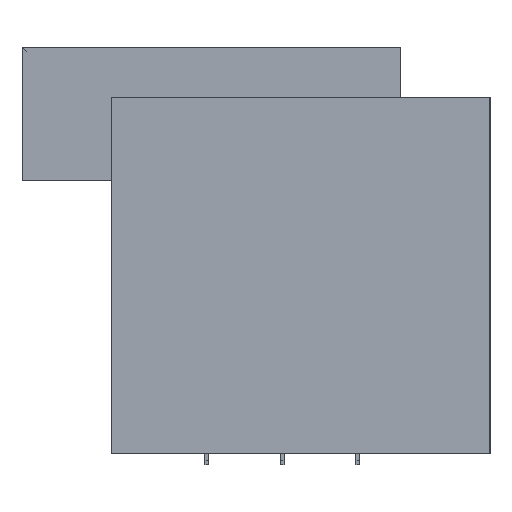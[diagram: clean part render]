
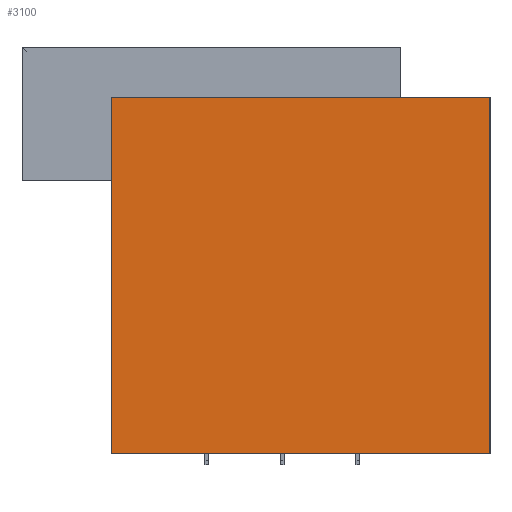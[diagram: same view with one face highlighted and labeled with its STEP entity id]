
A CAD part, left-side view. The second image highlights one B-rep face of the part: STEP entity #3100.
In plain terms, the highlighted planar face has unit normal (-1, 0, 0).
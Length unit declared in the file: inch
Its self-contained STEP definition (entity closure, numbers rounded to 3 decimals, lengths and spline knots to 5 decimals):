
#596=FACE_OUTER_BOUND('',#764,.T.);
#764=EDGE_LOOP('',(#2270,#2271,#2272,#2273));
#953=LINE('',#4444,#1303);
#955=LINE('',#4448,#1305);
#956=LINE('',#4450,#1306);
#957=LINE('',#4451,#1307);
#1303=VECTOR('',#3696,0.3937);
#1305=VECTOR('',#3700,0.3937);
#1306=VECTOR('',#3701,0.3937);
#1307=VECTOR('',#3702,0.3937);
#1644=VERTEX_POINT('',#4441);
#1645=VERTEX_POINT('',#4443);
#1646=VERTEX_POINT('',#4447);
#1647=VERTEX_POINT('',#4449);
#1889=EDGE_CURVE('',#1645,#1644,#953,.T.);
#1891=EDGE_CURVE('',#1644,#1646,#955,.T.);
#1892=EDGE_CURVE('',#1647,#1646,#956,.T.);
#1893=EDGE_CURVE('',#1645,#1647,#957,.T.);
#2270=ORIENTED_EDGE('',*,*,#1891,.T.);
#2271=ORIENTED_EDGE('',*,*,#1892,.F.);
#2272=ORIENTED_EDGE('',*,*,#1893,.F.);
#2273=ORIENTED_EDGE('',*,*,#1889,.T.);
#2934=PLANE('',#3458);
#3100=ADVANCED_FACE('',(#596),#2934,.T.);
#3458=AXIS2_PLACEMENT_3D('',#4446,#3698,#3699);
#3696=DIRECTION('',(0.,-1.,0.));
#3698=DIRECTION('center_axis',(-1.,0.,0.));
#3699=DIRECTION('ref_axis',(0.,0.,-1.));
#3700=DIRECTION('',(0.,0.,1.));
#3701=DIRECTION('',(0.,-1.,0.));
#3702=DIRECTION('',(0.,0.,1.));
#4441=CARTESIAN_POINT('',(0.,0.,-30.5));
#4443=CARTESIAN_POINT('',(0.,34.,-30.5));
#4444=CARTESIAN_POINT('',(0.,34.,-30.5));
#4446=CARTESIAN_POINT('Origin',(0.,34.,1.5));
#4447=CARTESIAN_POINT('',(0.,0.,1.5));
#4448=CARTESIAN_POINT('',(0.,0.,-6.5));
#4449=CARTESIAN_POINT('',(0.,34.,1.5));
#4450=CARTESIAN_POINT('',(0.,34.,1.5));
#4451=CARTESIAN_POINT('',(0.,34.,-30.5));
